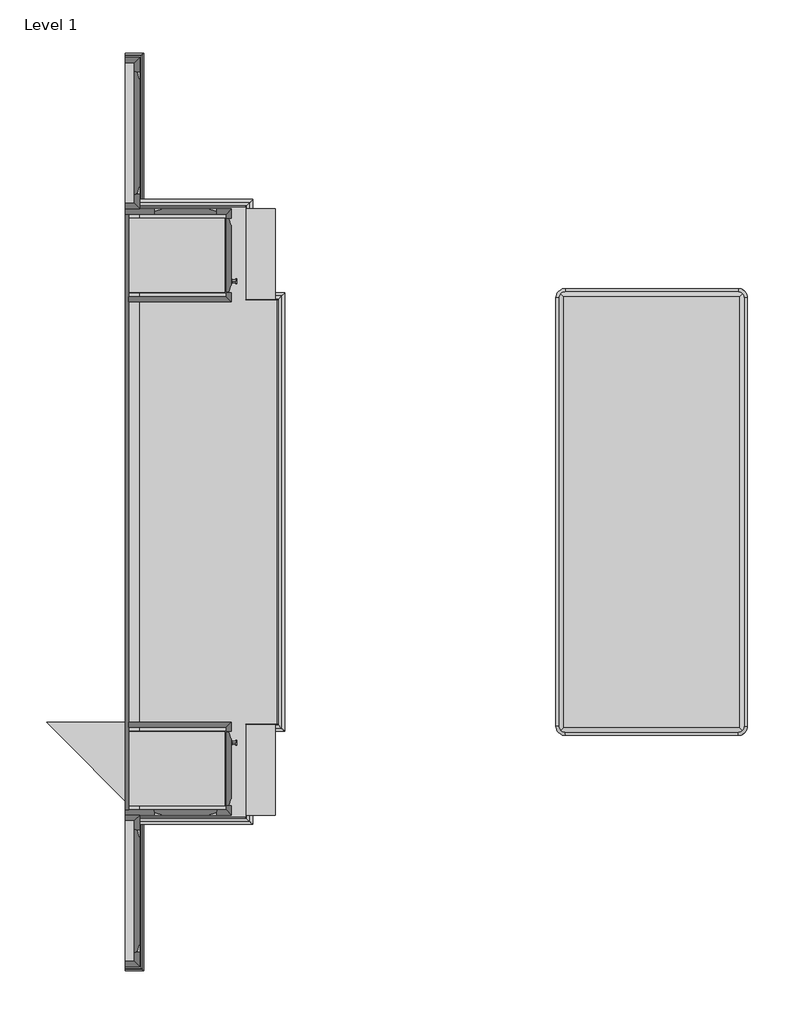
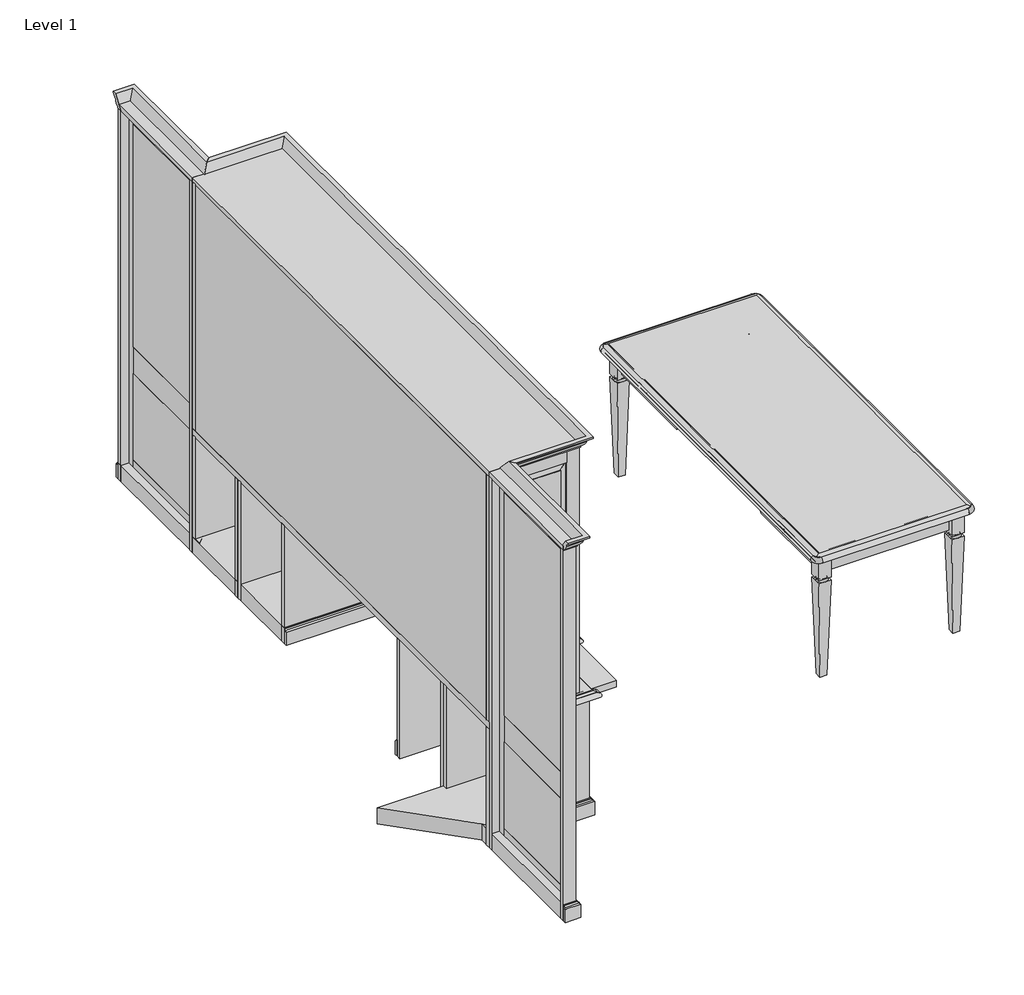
# One storey: 2 proxies.
"""IFC4 building model written with IfcOpenShell, lengths in millimetres."""

from ifc_helpers import new_model, si_unit, origin, place, context, project, spatial, transform, mapped, element, save
from components import generic_models_e164af76, generic_models_80e4cf9a, generic_models_a89a7235, generic_models_a693a05c

model = new_model("IFC4")

# Units and contexts
model_context = context("Model", 3, world=origin())
ifc_project = project(units=[si_unit("LENGTHUNIT", "METRE", prefix="MILLI")], contexts=[model_context])

# Site, building, storey
site = spatial("IfcSite", under=ifc_project)
building = spatial("IfcBuilding", under=site)
storey = spatial("IfcBuildingStorey", under=building, Name="Level 1", Elevation=0.0)

# Proxies
placement = place(None, origin())
generic_models_shape = generic_models_e164af76(model_context)
element("IfcBuildingElementProxy", 1, Name="CCN^BRIGHTON_36x84 TABLE DESK-PARTS SOLID", ObjectType="CCN^BRIGHTON_36x84 TABLE DESK-PARTS SOLID", at=placement, inside=storey, context=model_context, shape_type="MappedRepresentation", body=[
    mapped(generic_models_shape, transform((3000.375, -1330.325, 9.525), x_axis=(0.0, -1.0, 0.0), y_axis=(0.0, 0.0, 1.0), z_axis=(-1.0, 0.0, 0.0))),
])
generic_models_2_shape = generic_models_80e4cf9a(model_context)
generic_models_3_shape = generic_models_a89a7235(model_context)
generic_models_4_shape = generic_models_a693a05c(model_context)
element("IfcBuildingElementProxy", 2, Name="CCN^BRIGHTON_L2-C STEPPED WALL-SOLID ASSEMBLY", ObjectType="CCN^BRIGHTON_L2-C STEPPED WALL-SOLID ASSEMBLY", at=placement, inside=storey, context=model_context, shape_type="MappedRepresentation", body=[
    mapped(generic_models_2_shape, transform((1261.6036526, -3983.2611209, 1753.1512284), x_axis=(0.0, 1.0, 0.0), y_axis=(0.0, 0.0, 1.0), z_axis=(1.0, 0.0, 0.0))),
    mapped(generic_models_3_shape, transform((1261.6036526, -3983.2611209, 1753.1512284), x_axis=(0.0, 1.0, 0.0), y_axis=(0.0, 0.0, 1.0), z_axis=(1.0, 0.0, 0.0))),
    mapped(generic_models_4_shape, transform((1261.6036526, -3983.2611209, 1753.1512284), x_axis=(0.0, 1.0, 0.0), y_axis=(0.0, 0.0, 1.0), z_axis=(1.0, 0.0, 0.0))),
])

save(model, "model.ifc")
